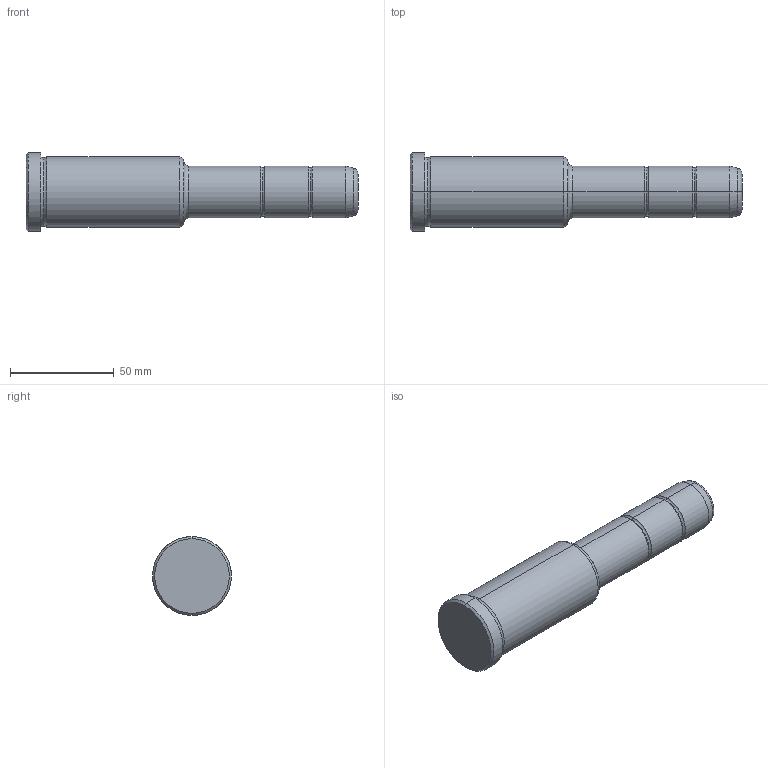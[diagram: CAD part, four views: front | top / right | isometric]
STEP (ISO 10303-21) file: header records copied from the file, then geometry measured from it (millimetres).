
FILE_DESCRIPTION(('CATIA V5 STEP Exchange'),'2;1');
FILE_NAME('C:\Users\Utente\Desktop\IO LAVORO\3D X SITO CF\X SITO\PLASTICA\351\351-25X76X160.stp','2021-09-07T11:34:02+00:00',('none'),('none'),'CATIA Version 5 Release 20 GA (IN-10)','CATIA V5 STEP AP203','none');
FILE_SCHEMA(('CONFIG_CONTROL_DESIGN'));
Length unit declared in the file: millimetre
Products named in the file (1): 351-25X76X160
Bounding box: 160 x 38 x 38 mm (x, y, z)
Volume: 111029.7 mm3; surface area: 16761.4 mm2
Topology: 1 solids, 1 shells, 36 faces, 102 edges, 70 vertices
Faces by surface type: torus 16, cylinder 10, cone 6, plane 4
Entity records: 1292 total; most frequent: CARTESIAN_POINT 321, ORIENTED_EDGE 204, DIRECTION 166, AXIS2_PLACEMENT_3D 115, EDGE_CURVE 102, CIRCLE 78, VERTEX_POINT 70, EDGE_LOOP 38
